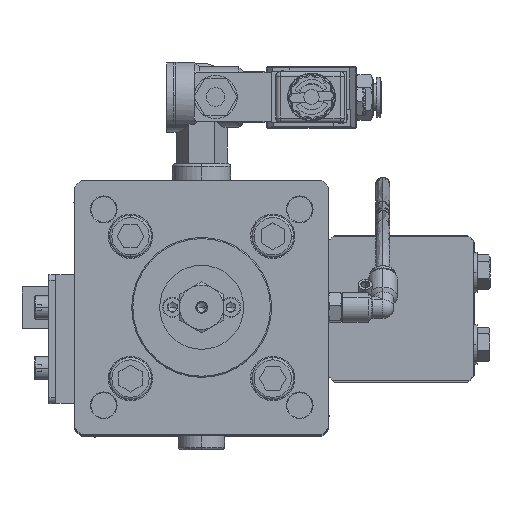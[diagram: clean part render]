
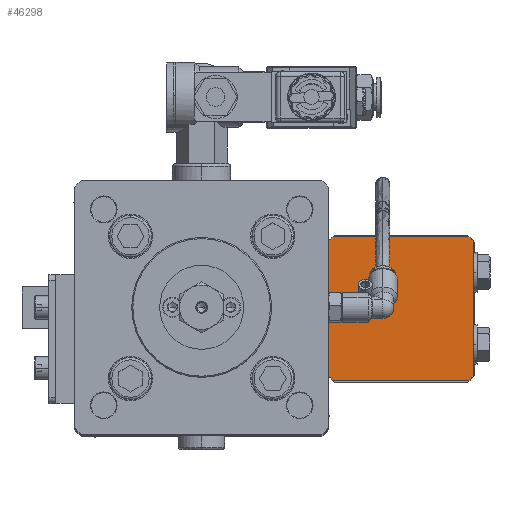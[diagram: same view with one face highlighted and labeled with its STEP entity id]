
A CAD part, top view. The second image highlights one B-rep face of the part: STEP entity #46298.
In plain terms, the highlighted planar face has unit normal (0, 0, 1) as drawn and (0, -1, 0) by its records, which use the part's own axes.
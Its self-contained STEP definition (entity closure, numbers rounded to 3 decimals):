
#3 = AXIS2_PLACEMENT_3D ( 'NONE', #29019, #29361, #87582 ) ;
#3852 = CARTESIAN_POINT ( 'NONE',  ( 29.073, 0., 31. ) ) ;
#5677 = VERTEX_POINT ( 'NONE', #3852 ) ;
#7266 = AXIS2_PLACEMENT_3D ( 'NONE', #91107, #41277, #99460 ) ;
#7999 = DIRECTION ( 'NONE',  ( 0., 0., 1. ) ) ;
#8068 = CARTESIAN_POINT ( 'NONE',  ( -31., 0., 31. ) ) ;
#8365 = VERTEX_POINT ( 'NONE', #48416 ) ;
#12717 = PLANE ( 'NONE',  #3 ) ;
#14021 = VECTOR ( 'NONE', #89037, 1000. ) ;
#14443 = CARTESIAN_POINT ( 'NONE',  ( 0., 0., 0. ) ) ;
#18468 = ORIENTED_EDGE ( 'NONE', *, *, #40060, .T. ) ;
#19767 = ORIENTED_EDGE ( 'NONE', *, *, #65087, .F. ) ;
#21120 = AXIS2_PLACEMENT_3D ( 'NONE', #107643, #57774, #7999 ) ;
#22519 = CARTESIAN_POINT ( 'NONE',  ( -31., 0., -31. ) ) ;
#22794 = DIRECTION ( 'NONE',  ( 0., 0., 1. ) ) ;
#23416 = EDGE_CURVE ( 'NONE', #101728, #5677, #102835, .T. ) ;
#24560 = LINE ( 'NONE', #32019, #90890 ) ;
#25060 = ORIENTED_EDGE ( 'NONE', *, *, #50538, .F. ) ;
#26345 = VERTEX_POINT ( 'NONE', #85759 ) ;
#27617 = AXIS2_PLACEMENT_3D ( 'NONE', #14443, #72601, #22794 ) ;
#29019 = CARTESIAN_POINT ( 'NONE',  ( 0., 0., 0. ) ) ;
#29361 = DIRECTION ( 'NONE',  ( 0., 1., 0. ) ) ;
#30507 = EDGE_CURVE ( 'NONE', #8365, #26345, #94590, .T. ) ;
#32019 = CARTESIAN_POINT ( 'NONE',  ( -31., 0., -31. ) ) ;
#33035 = VERTEX_POINT ( 'NONE', #73985 ) ;
#34204 = CARTESIAN_POINT ( 'NONE',  ( 31., 0., -29.073 ) ) ;
#34888 = EDGE_CURVE ( 'NONE', #52675, #5677, #91177, .T. ) ;
#36074 = LINE ( 'NONE', #22519, #14021 ) ;
#40060 = EDGE_CURVE ( 'NONE', #52675, #33035, #48469, .T. ) ;
#41277 = DIRECTION ( 'NONE',  ( 0., -1., 0. ) ) ;
#44600 = CARTESIAN_POINT ( 'NONE',  ( 0., 0., 0. ) ) ;
#45423 = DIRECTION ( 'NONE',  ( 0., 0., -1. ) ) ;
#46298 = ADVANCED_FACE ( 'NONE', ( #69057 ), #12717, .F. ) ;
#48416 = CARTESIAN_POINT ( 'NONE',  ( -31., 0., -29.073 ) ) ;
#48469 = CIRCLE ( 'NONE', #75446, 42.5 ) ;
#50538 = EDGE_CURVE ( 'NONE', #101728, #63672, #107548, .T. ) ;
#51336 = ORIENTED_EDGE ( 'NONE', *, *, #23416, .T. ) ;
#51622 = ORIENTED_EDGE ( 'NONE', *, *, #34888, .F. ) ;
#52675 = VERTEX_POINT ( 'NONE', #74661 ) ;
#52960 = DIRECTION ( 'NONE',  ( 0., 0., 1. ) ) ;
#55391 = EDGE_LOOP ( 'NONE', ( #18468, #56332, #90854, #19767, #99977, #25060, #51336, #51622 ) ) ;
#56332 = ORIENTED_EDGE ( 'NONE', *, *, #91357, .F. ) ;
#57774 = DIRECTION ( 'NONE',  ( 0., -1., 0. ) ) ;
#58048 = VECTOR ( 'NONE', #45423, 1000. ) ;
#58907 = VERTEX_POINT ( 'NONE', #89944 ) ;
#59605 = EDGE_CURVE ( 'NONE', #58907, #63672, #71013, .T. ) ;
#63672 = VERTEX_POINT ( 'NONE', #34204 ) ;
#65087 = EDGE_CURVE ( 'NONE', #58907, #26345, #24560, .T. ) ;
#69057 = FACE_OUTER_BOUND ( 'NONE', #55391, .T. ) ;
#71013 = CIRCLE ( 'NONE', #21120, 42.5 ) ;
#72601 = DIRECTION ( 'NONE',  ( 0., -1., 0. ) ) ;
#73985 = CARTESIAN_POINT ( 'NONE',  ( -31., 0., 29.073 ) ) ;
#74661 = CARTESIAN_POINT ( 'NONE',  ( -29.073, 0., 31. ) ) ;
#75446 = AXIS2_PLACEMENT_3D ( 'NONE', #44600, #102780, #52960 ) ;
#81931 = DIRECTION ( 'NONE',  ( -1., 0., 0. ) ) ;
#85759 = CARTESIAN_POINT ( 'NONE',  ( -29.073, 0., -31. ) ) ;
#85961 = VECTOR ( 'NONE', #99661, 1000. ) ;
#87582 = DIRECTION ( 'NONE',  ( 0., 0., 1. ) ) ;
#89037 = DIRECTION ( 'NONE',  ( 0., 0., 1. ) ) ;
#89944 = CARTESIAN_POINT ( 'NONE',  ( 29.073, 0., -31. ) ) ;
#90854 = ORIENTED_EDGE ( 'NONE', *, *, #30507, .T. ) ;
#90890 = VECTOR ( 'NONE', #81931, 1000. ) ;
#91107 = CARTESIAN_POINT ( 'NONE',  ( 0., 0., 0. ) ) ;
#91177 = LINE ( 'NONE', #8068, #85961 ) ;
#91357 = EDGE_CURVE ( 'NONE', #8365, #33035, #36074, .T. ) ;
#94590 = CIRCLE ( 'NONE', #7266, 42.5 ) ;
#99460 = DIRECTION ( 'NONE',  ( 0., 0., 1. ) ) ;
#99661 = DIRECTION ( 'NONE',  ( 1., 0., 0. ) ) ;
#99977 = ORIENTED_EDGE ( 'NONE', *, *, #59605, .T. ) ;
#101728 = VERTEX_POINT ( 'NONE', #102021 ) ;
#102021 = CARTESIAN_POINT ( 'NONE',  ( 31., 0., 29.073 ) ) ;
#102780 = DIRECTION ( 'NONE',  ( 0., -1., 0. ) ) ;
#102835 = CIRCLE ( 'NONE', #27617, 42.5 ) ;
#103595 = CARTESIAN_POINT ( 'NONE',  ( 31., 0., -31. ) ) ;
#107548 = LINE ( 'NONE', #103595, #58048 ) ;
#107643 = CARTESIAN_POINT ( 'NONE',  ( 0., 0., 0. ) ) ;
